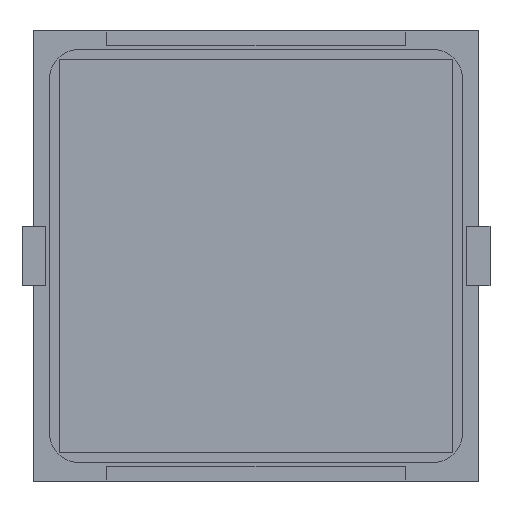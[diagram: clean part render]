
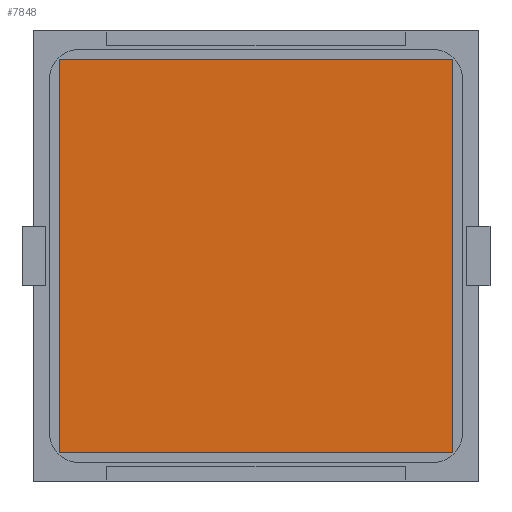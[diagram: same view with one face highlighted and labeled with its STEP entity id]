
A CAD part, front view. The second image highlights one B-rep face of the part: STEP entity #7848.
In plain terms, the highlighted planar face has unit normal (0, -1, 0).
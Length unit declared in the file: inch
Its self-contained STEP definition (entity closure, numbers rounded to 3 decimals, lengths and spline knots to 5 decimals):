
#81 = DIRECTION ( 'NONE',  ( 0., 1., 0. ) ) ;
#143 = DIRECTION ( 'NONE',  ( 0., 0., 1. ) ) ;
#229 = CARTESIAN_POINT ( 'NONE',  ( -0.64961, -0.005, -0.64961 ) ) ;
#785 = CARTESIAN_POINT ( 'NONE',  ( -0.64961, -0.005, -0.64961 ) ) ;
#1026 = DIRECTION ( 'NONE',  ( 1., 0., 0. ) ) ;
#1445 = DIRECTION ( 'NONE',  ( -1., 0., 0. ) ) ;
#1700 = VECTOR ( 'NONE', #1445, 39.37008 ) ;
#2026 = EDGE_CURVE ( 'NONE', #2515, #8871, #5025, .T. ) ;
#2515 = VERTEX_POINT ( 'NONE', #7213 ) ;
#2520 = CARTESIAN_POINT ( 'NONE',  ( -0.64961, -0.005, 0.64961 ) ) ;
#2768 = VECTOR ( 'NONE', #143, 39.37008 ) ;
#3015 = ORIENTED_EDGE ( 'NONE', *, *, #5232, .F. ) ;
#3104 = FACE_OUTER_BOUND ( 'NONE', #4225, .T. ) ;
#3148 = VECTOR ( 'NONE', #4163, 39.37008 ) ;
#3383 = LINE ( 'NONE', #2520, #10351 ) ;
#3620 = ORIENTED_EDGE ( 'NONE', *, *, #2026, .F. ) ;
#4011 = EDGE_CURVE ( 'NONE', #8871, #9658, #8933, .T. ) ;
#4065 = ORIENTED_EDGE ( 'NONE', *, *, #10054, .F. ) ;
#4135 = LINE ( 'NONE', #785, #2768 ) ;
#4163 = DIRECTION ( 'NONE',  ( 0., 0., -1. ) ) ;
#4225 = EDGE_LOOP ( 'NONE', ( #3015, #7330, #3620, #4065 ) ) ;
#5025 = LINE ( 'NONE', #7370, #3148 ) ;
#5232 = EDGE_CURVE ( 'NONE', #9658, #7287, #4135, .T. ) ;
#6015 = CARTESIAN_POINT ( 'NONE',  ( 0.64961, -0.005, -0.64961 ) ) ;
#6188 = CARTESIAN_POINT ( 'NONE',  ( -0.64961, -0.005, 0.64961 ) ) ;
#7189 = AXIS2_PLACEMENT_3D ( 'NONE', #7498, #81, #10135 ) ;
#7213 = CARTESIAN_POINT ( 'NONE',  ( 0.64961, -0.005, 0.64961 ) ) ;
#7287 = VERTEX_POINT ( 'NONE', #6188 ) ;
#7330 = ORIENTED_EDGE ( 'NONE', *, *, #4011, .F. ) ;
#7370 = CARTESIAN_POINT ( 'NONE',  ( 0.64961, -0.005, -0.64961 ) ) ;
#7498 = CARTESIAN_POINT ( 'NONE',  ( -0.64961, -0.005, 0.64961 ) ) ;
#7848 = ADVANCED_FACE ( 'NONE', ( #3104 ), #9752, .F. ) ;
#8871 = VERTEX_POINT ( 'NONE', #6015 ) ;
#8933 = LINE ( 'NONE', #9036, #1700 ) ;
#9036 = CARTESIAN_POINT ( 'NONE',  ( -0.64961, -0.005, -0.64961 ) ) ;
#9658 = VERTEX_POINT ( 'NONE', #229 ) ;
#9752 = PLANE ( 'NONE',  #7189 ) ;
#10054 = EDGE_CURVE ( 'NONE', #7287, #2515, #3383, .T. ) ;
#10135 = DIRECTION ( 'NONE',  ( 0., 0., 1. ) ) ;
#10351 = VECTOR ( 'NONE', #1026, 39.37008 ) ;
